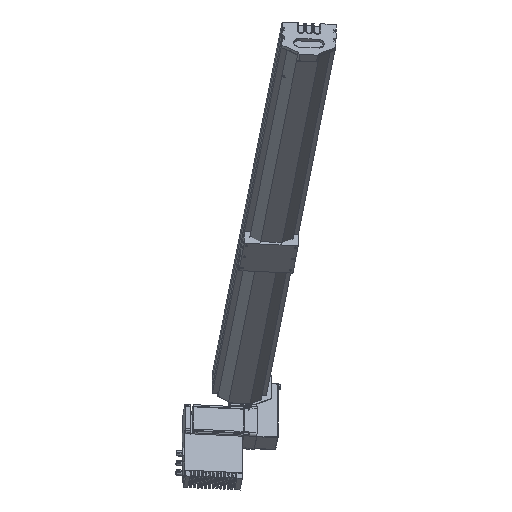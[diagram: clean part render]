
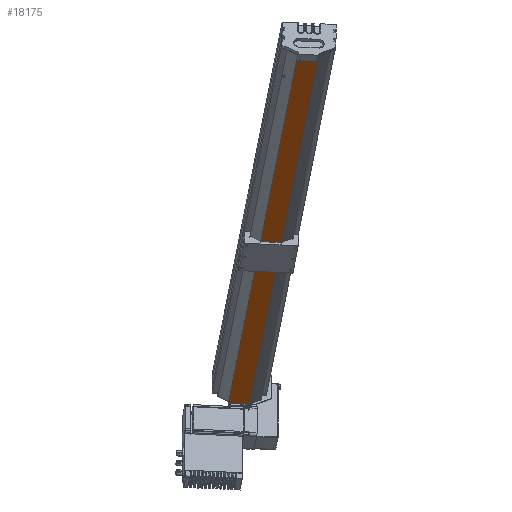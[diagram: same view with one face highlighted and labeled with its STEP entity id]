
A CAD part, isometric view. The second image highlights one B-rep face of the part: STEP entity #18175.
In plain terms, the highlighted planar face has unit normal (-0.632, -0.625, -0.459) as drawn and (0, 1, 0) by its records, which use the part's own axes.
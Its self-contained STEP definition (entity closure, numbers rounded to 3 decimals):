
#12771 = CARTESIAN_POINT ( 'NONE',  ( 20., 61.75, 0. ) ) ;
#13107 = LINE ( 'NONE', #13151, #13150 ) ;
#13149 = DIRECTION ( 'NONE',  ( 0., 0., -1. ) ) ;
#13150 = VECTOR ( 'NONE', #13149, 1000. ) ;
#13151 = CARTESIAN_POINT ( 'NONE',  ( 20., 61.75, 1400. ) ) ;
#13180 = CARTESIAN_POINT ( 'NONE',  ( 20., 61.75, 5.114 ) ) ;
#16131 = VERTEX_POINT ( 'NONE', #12771 ) ;
#16267 = VERTEX_POINT ( 'NONE', #13180 ) ;
#16294 = EDGE_CURVE ( 'NONE', #16267, #16131, #13107, .T. ) ;
#18172 = ORIENTED_EDGE ( 'NONE', *, *, #18296, .T. ) ;
#18175 = ADVANCED_FACE ( 'NONE', ( #24142 ), #24038, .F. ) ;
#18178 = ORIENTED_EDGE ( 'NONE', *, *, #18236, .T. ) ;
#18179 = EDGE_LOOP ( 'NONE', ( #18172, #18373, #18287, #18178, #18242 ) ) ;
#18181 = EDGE_CURVE ( 'NONE', #18244, #18209, #24129, .T. ) ;
#18209 = VERTEX_POINT ( 'NONE', #24050 ) ;
#18236 = EDGE_CURVE ( 'NONE', #18253, #16267, #24090, .T. ) ;
#18241 = EDGE_CURVE ( 'NONE', #18253, #18244, #24158, .T. ) ;
#18242 = ORIENTED_EDGE ( 'NONE', *, *, #16294, .T. ) ;
#18244 = VERTEX_POINT ( 'NONE', #24160 ) ;
#18253 = VERTEX_POINT ( 'NONE', #24040 ) ;
#18287 = ORIENTED_EDGE ( 'NONE', *, *, #18241, .F. ) ;
#18296 = EDGE_CURVE ( 'NONE', #16131, #18209, #24093, .T. ) ;
#18373 = ORIENTED_EDGE ( 'NONE', *, *, #18181, .F. ) ;
#24031 = CARTESIAN_POINT ( 'NONE',  ( 20., 61.75, 0. ) ) ;
#24037 = VECTOR ( 'NONE', #24085, 1000. ) ;
#24038 = PLANE ( 'NONE',  #24084 ) ;
#24040 = CARTESIAN_POINT ( 'NONE',  ( 20., 61.75, 1400. ) ) ;
#24050 = CARTESIAN_POINT ( 'NONE',  ( -20., 61.75, 0. ) ) ;
#24058 = DIRECTION ( 'NONE',  ( 0., 0., -1. ) ) ;
#24059 = CARTESIAN_POINT ( 'NONE',  ( -20., 61.75, 1400. ) ) ;
#24068 = DIRECTION ( 'NONE',  ( 0., -1., 0. ) ) ;
#24080 = DIRECTION ( 'NONE',  ( -1., 0., 0. ) ) ;
#24081 = VECTOR ( 'NONE', #24080, 1000. ) ;
#24084 = AXIS2_PLACEMENT_3D ( 'NONE', #24172, #24068, #24058 ) ;
#24085 = DIRECTION ( 'NONE',  ( -1., 0., 0. ) ) ;
#24086 = CARTESIAN_POINT ( 'NONE',  ( 20., 61.75, 1400. ) ) ;
#24087 = DIRECTION ( 'NONE',  ( 0., 0., -1. ) ) ;
#24088 = VECTOR ( 'NONE', #24087, 1000. ) ;
#24089 = CARTESIAN_POINT ( 'NONE',  ( 20., 61.75, 1400. ) ) ;
#24090 = LINE ( 'NONE', #24089, #24088 ) ;
#24093 = LINE ( 'NONE', #24031, #24081 ) ;
#24129 = LINE ( 'NONE', #24059, #24169 ) ;
#24142 = FACE_OUTER_BOUND ( 'NONE', #18179, .T. ) ;
#24158 = LINE ( 'NONE', #24086, #24037 ) ;
#24160 = CARTESIAN_POINT ( 'NONE',  ( -20., 61.75, 1400. ) ) ;
#24168 = DIRECTION ( 'NONE',  ( 0., 0., -1. ) ) ;
#24169 = VECTOR ( 'NONE', #24168, 1000. ) ;
#24172 = CARTESIAN_POINT ( 'NONE',  ( 20., 61.75, 1400. ) ) ;
